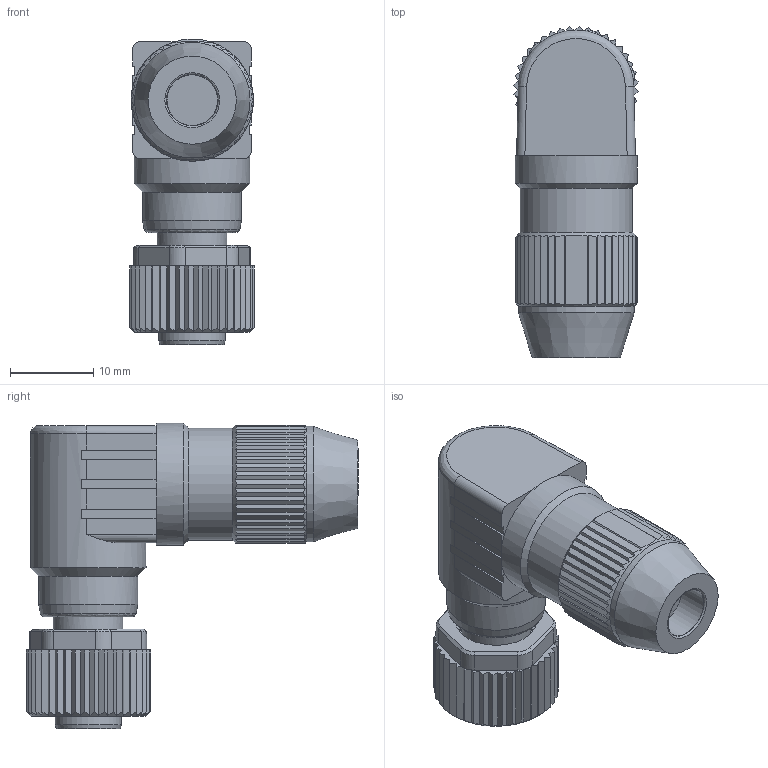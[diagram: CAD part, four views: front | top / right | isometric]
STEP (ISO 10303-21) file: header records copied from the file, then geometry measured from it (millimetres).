
FILE_DESCRIPTION(/* description */ (''),/* implementation_level */ '2;1');
FILE_NAME(/* name */ 'MD_21571114405.stp',/* time_stamp */ '2015-05-06T11:20:46+02:00',/* author */ (''),/* organization */ (''),/* preprocessor_version */ 'ST-DEVELOPER v15',/* originating_system */ 'SIEMENS PLM Software NX 8.5',/* authorisation */ '');
FILE_SCHEMA (('AUTOMOTIVE_DESIGN { 1 0 10303 214 3 1 1 1 }'));
Length unit declared in the file: millimetre
Products named in the file (1): 100622602ugm000_a
Bounding box: 14.98 x 39.94 x 36.8 mm (x, y, z)
Volume: 8641.8 mm3; surface area: 4324.2 mm2
Topology: 1 solids, 1 shells, 370 faces, 1080 edges, 695 vertices
Faces by surface type: plane 277, cylinder 69, cone 19, bspline 3, torus 2
Full cylindrical faces by diameter (mm): 1 x4, 6.1 x1, 8.4 x1, 9.6 x1, 9.7 x1, 10.6 x1, 10.9 x1, 11.9 x1, 12 x1, 12.2 x1, 13.5 x1, 13.9 x2, 14.7 x1
Entity records: 14765 total; most frequent: CARTESIAN_POINT 3301, ORIENTED_EDGE 2074, DIRECTION 1592, EDGE_CURVE 1037, VERTEX_POINT 684, AXIS2_PLACEMENT_3D 541, LINE 510, VECTOR 510
